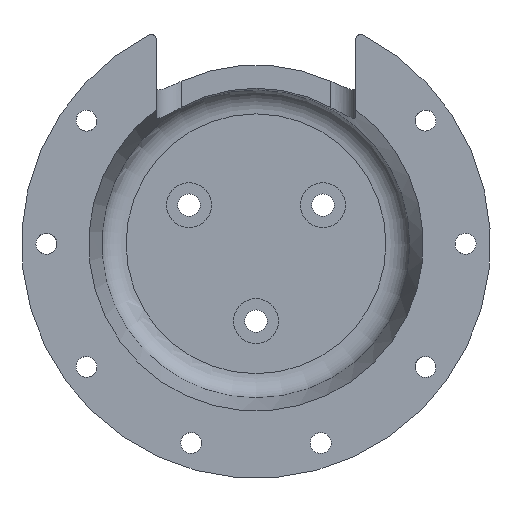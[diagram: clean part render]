
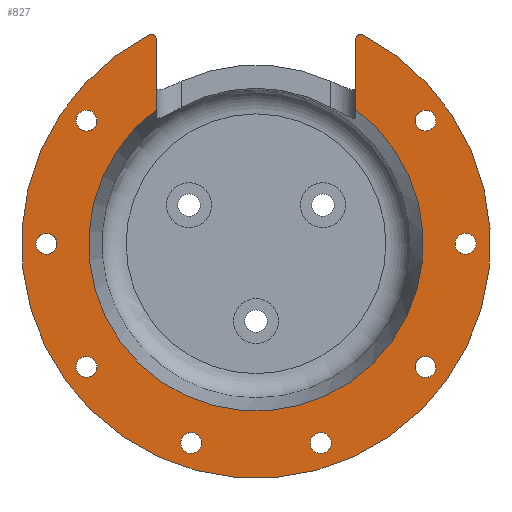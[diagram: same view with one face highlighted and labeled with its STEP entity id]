
A CAD part, left-side view. The second image highlights one B-rep face of the part: STEP entity #827.
In plain terms, the highlighted planar face has unit normal (-1, 0, 0).
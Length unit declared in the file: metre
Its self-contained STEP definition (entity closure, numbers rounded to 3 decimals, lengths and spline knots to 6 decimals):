
#47=LINE('',#1354,#61);
#48=LINE('',#1360,#62);
#61=VECTOR('',#1079,1.);
#62=VECTOR('',#1084,1.);
#72=PLANE('',#914);
#132=ORIENTED_EDGE('',*,*,#340,.F.);
#133=ORIENTED_EDGE('',*,*,#341,.F.);
#134=ORIENTED_EDGE('',*,*,#342,.F.);
#135=ORIENTED_EDGE('',*,*,#343,.F.);
#136=ORIENTED_EDGE('',*,*,#344,.F.);
#137=ORIENTED_EDGE('',*,*,#345,.F.);
#138=ORIENTED_EDGE('',*,*,#346,.F.);
#139=ORIENTED_EDGE('',*,*,#347,.F.);
#140=ORIENTED_EDGE('',*,*,#348,.T.);
#141=ORIENTED_EDGE('',*,*,#349,.T.);
#142=ORIENTED_EDGE('',*,*,#339,.T.);
#143=ORIENTED_EDGE('',*,*,#350,.T.);
#144=ORIENTED_EDGE('',*,*,#351,.F.);
#145=ORIENTED_EDGE('',*,*,#352,.F.);
#339=EDGE_CURVE('',#440,#443,#522,.T.);
#340=EDGE_CURVE('',#444,#444,#523,.T.);
#341=EDGE_CURVE('',#445,#445,#524,.T.);
#342=EDGE_CURVE('',#446,#446,#525,.T.);
#343=EDGE_CURVE('',#447,#447,#526,.T.);
#344=EDGE_CURVE('',#448,#448,#527,.T.);
#345=EDGE_CURVE('',#449,#449,#528,.T.);
#346=EDGE_CURVE('',#450,#450,#529,.T.);
#347=EDGE_CURVE('',#451,#451,#530,.T.);
#348=EDGE_CURVE('',#452,#453,#47,.T.);
#349=EDGE_CURVE('',#453,#440,#531,.T.);
#350=EDGE_CURVE('',#443,#454,#532,.T.);
#351=EDGE_CURVE('',#455,#454,#48,.T.);
#352=EDGE_CURVE('',#452,#455,#533,.T.);
#440=VERTEX_POINT('',#1330);
#443=VERTEX_POINT('',#1335);
#444=VERTEX_POINT('',#1339);
#445=VERTEX_POINT('',#1341);
#446=VERTEX_POINT('',#1343);
#447=VERTEX_POINT('',#1345);
#448=VERTEX_POINT('',#1347);
#449=VERTEX_POINT('',#1349);
#450=VERTEX_POINT('',#1351);
#451=VERTEX_POINT('',#1353);
#452=VERTEX_POINT('',#1355);
#453=VERTEX_POINT('',#1356);
#454=VERTEX_POINT('',#1359);
#455=VERTEX_POINT('',#1361);
#522=CIRCLE('',#913,0.047);
#523=CIRCLE('',#915,0.0021);
#524=CIRCLE('',#916,0.0021);
#525=CIRCLE('',#917,0.0021);
#526=CIRCLE('',#918,0.0021);
#527=CIRCLE('',#919,0.0021);
#528=CIRCLE('',#920,0.0021);
#529=CIRCLE('',#921,0.0021);
#530=CIRCLE('',#922,0.0021);
#531=CIRCLE('',#923,0.001);
#532=CIRCLE('',#924,0.001);
#533=CIRCLE('',#925,0.033537);
#584=EDGE_LOOP('',(#132));
#585=EDGE_LOOP('',(#133));
#586=EDGE_LOOP('',(#134));
#587=EDGE_LOOP('',(#135));
#588=EDGE_LOOP('',(#136));
#589=EDGE_LOOP('',(#137));
#590=EDGE_LOOP('',(#138));
#591=EDGE_LOOP('',(#139));
#592=EDGE_LOOP('',(#140,#141,#142,#143,#144,#145));
#703=FACE_BOUND('',#584,.T.);
#704=FACE_BOUND('',#585,.T.);
#705=FACE_BOUND('',#586,.T.);
#706=FACE_BOUND('',#587,.T.);
#707=FACE_BOUND('',#588,.T.);
#708=FACE_BOUND('',#589,.T.);
#709=FACE_BOUND('',#590,.T.);
#710=FACE_BOUND('',#591,.T.);
#711=FACE_BOUND('',#592,.T.);
#827=ADVANCED_FACE('',(#703,#704,#705,#706,#707,#708,#709,#710,#711),#72,
 .T.);
#913=AXIS2_PLACEMENT_3D('',#1336,#1059,#1060);
#914=AXIS2_PLACEMENT_3D('',#1337,#1061,#1062);
#915=AXIS2_PLACEMENT_3D('',#1338,#1063,#1064);
#916=AXIS2_PLACEMENT_3D('',#1340,#1065,#1066);
#917=AXIS2_PLACEMENT_3D('',#1342,#1067,#1068);
#918=AXIS2_PLACEMENT_3D('',#1344,#1069,#1070);
#919=AXIS2_PLACEMENT_3D('',#1346,#1071,#1072);
#920=AXIS2_PLACEMENT_3D('',#1348,#1073,#1074);
#921=AXIS2_PLACEMENT_3D('',#1350,#1075,#1076);
#922=AXIS2_PLACEMENT_3D('',#1352,#1077,#1078);
#923=AXIS2_PLACEMENT_3D('',#1357,#1080,#1081);
#924=AXIS2_PLACEMENT_3D('',#1358,#1082,#1083);
#925=AXIS2_PLACEMENT_3D('',#1362,#1085,#1086);
#1059=DIRECTION('',(-1.,0.,0.));
#1060=DIRECTION('',(0.,0.,1.));
#1061=DIRECTION('',(-1.,0.,0.));
#1062=DIRECTION('',(0.,0.,1.));
#1063=DIRECTION('',(-1.,0.,0.));
#1064=DIRECTION('',(0.,-0.951,0.309));
#1065=DIRECTION('',(-1.,0.,0.));
#1066=DIRECTION('',(0.,-0.951,-0.309));
#1067=DIRECTION('',(-1.,0.,0.));
#1068=DIRECTION('',(0.,-0.588,-0.809));
#1069=DIRECTION('',(-1.,0.,0.));
#1070=DIRECTION('',(0.,0.,-1.));
#1071=DIRECTION('',(-1.,0.,0.));
#1072=DIRECTION('',(0.,0.588,-0.809));
#1073=DIRECTION('',(-1.,0.,0.));
#1074=DIRECTION('',(0.,0.951,-0.309));
#1075=DIRECTION('',(-1.,0.,0.));
#1076=DIRECTION('',(0.,0.951,0.309));
#1077=DIRECTION('',(-1.,0.,0.));
#1078=DIRECTION('',(0.,0.588,0.809));
#1079=DIRECTION('',(0.,0.,1.));
#1080=DIRECTION('',(-1.,0.,0.));
#1081=DIRECTION('',(0.,0.,1.));
#1082=DIRECTION('',(-1.,0.,0.));
#1083=DIRECTION('',(0.,0.,1.));
#1084=DIRECTION('',(0.,0.,1.));
#1085=DIRECTION('',(-1.,0.,0.));
#1086=DIRECTION('',(0.,0.,1.));
#1330=CARTESIAN_POINT('',(-0.015,0.021457,0.041816));
#1335=CARTESIAN_POINT('',(-0.015,-0.021457,0.041816));
#1336=CARTESIAN_POINT('',(-0.015,0.,0.));
#1337=CARTESIAN_POINT('',(-0.015,0.040268,0.));
#1338=CARTESIAN_POINT('',(-0.015,-0.033979,0.024687));
#1339=CARTESIAN_POINT('',(-0.015,-0.035976,0.025336));
#1340=CARTESIAN_POINT('',(-0.015,-0.042,0.));
#1341=CARTESIAN_POINT('',(-0.015,-0.043997,-0.000649));
#1342=CARTESIAN_POINT('',(-0.015,-0.033979,-0.024687));
#1343=CARTESIAN_POINT('',(-0.015,-0.035213,-0.026386));
#1344=CARTESIAN_POINT('',(-0.015,-0.012979,-0.039944));
#1345=CARTESIAN_POINT('',(-0.015,-0.012979,-0.042044));
#1346=CARTESIAN_POINT('',(-0.015,0.012979,-0.039944));
#1347=CARTESIAN_POINT('',(-0.015,0.014213,-0.041643));
#1348=CARTESIAN_POINT('',(-0.015,0.033979,-0.024687));
#1349=CARTESIAN_POINT('',(-0.015,0.035976,-0.025336));
#1350=CARTESIAN_POINT('',(-0.015,0.042,0.));
#1351=CARTESIAN_POINT('',(-0.015,0.043997,0.000649));
#1352=CARTESIAN_POINT('',(-0.015,0.033979,0.024687));
#1353=CARTESIAN_POINT('',(-0.015,0.035213,0.026386));
#1354=CARTESIAN_POINT('',(-0.015,0.02,0.026266));
#1355=CARTESIAN_POINT('',(-0.015,0.02,0.026921));
#1356=CARTESIAN_POINT('',(-0.015,0.02,0.040927));
#1357=CARTESIAN_POINT('',(-0.015,0.021,0.040927));
#1358=CARTESIAN_POINT('',(-0.015,-0.021,0.040927));
#1359=CARTESIAN_POINT('',(-0.015,-0.02,0.040927));
#1360=CARTESIAN_POINT('',(-0.015,-0.02,0.026266));
#1361=CARTESIAN_POINT('',(-0.015,-0.02,0.026921));
#1362=CARTESIAN_POINT('',(-0.015,0.,0.));
